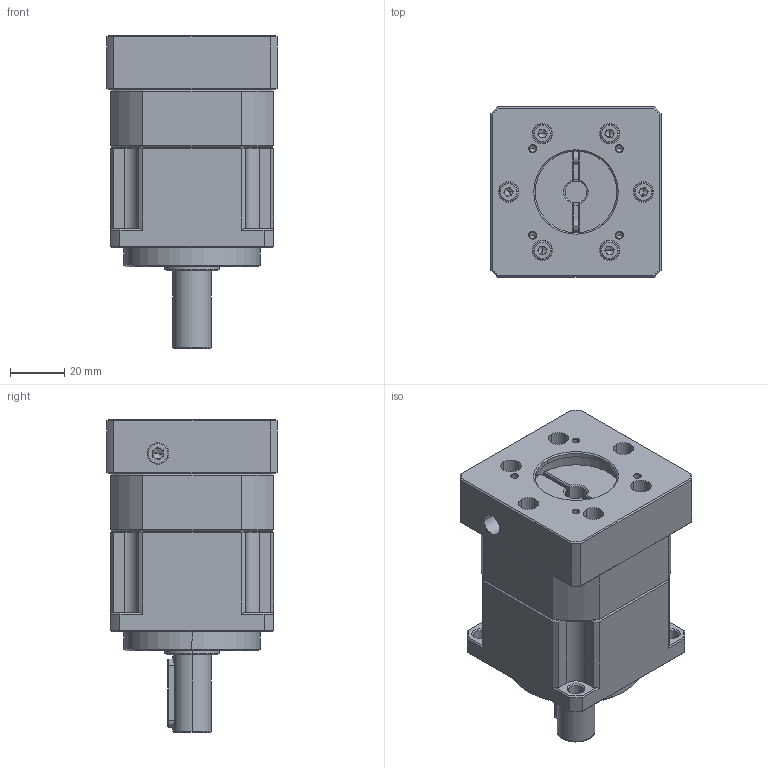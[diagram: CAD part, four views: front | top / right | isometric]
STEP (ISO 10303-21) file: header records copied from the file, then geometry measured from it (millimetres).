
FILE_DESCRIPTION (( 'STEP AP214' ), '1' );
FILE_NAME ('ZPB060-D14-L1-P1-8-30-45-M3.step', '2024-04-23T14:22:21', ( 'Windows 蚚誧' ), ( 'Organization' ), 'SwSTEP 2.0', 'SolidWorks 2016', '' );
FILE_SCHEMA (( 'AUTOMOTIVE_DESIGN' ));
Length unit declared in the file: millimetre
Products named in the file (1): ZPB060-D14-L1-P1-8-30-45-M3
Bounding box: 62.5 x 62.5 x 115 mm (x, y, z)
Volume: 248875.7 mm3; surface area: 76102.2 mm2
Topology: 17 solids, 17 shells, 1867 faces, 5228 edges, 3366 vertices
Faces by surface type: plane 911, bspline 322, cylinder 306, cone 186, torus 96, sphere 46
Entity records: 97947 total; most frequent: CARTESIAN_POINT 32363, ORIENTED_EDGE 10116, DIRECTION 8047, EDGE_CURVE 5058, VERTEX_POINT 3297, VECTOR 2917, LINE 2917, AXIS2_PLACEMENT_3D 2565
